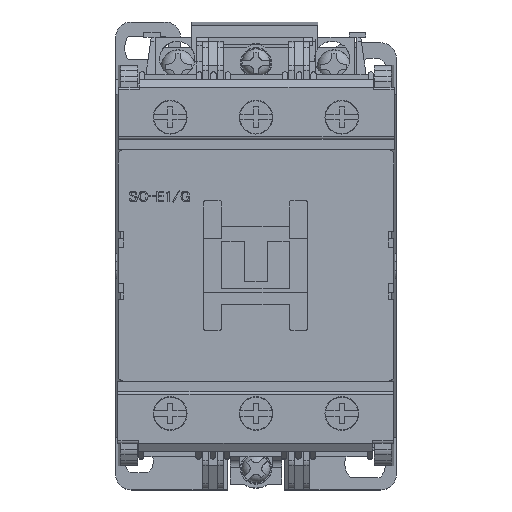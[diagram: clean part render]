
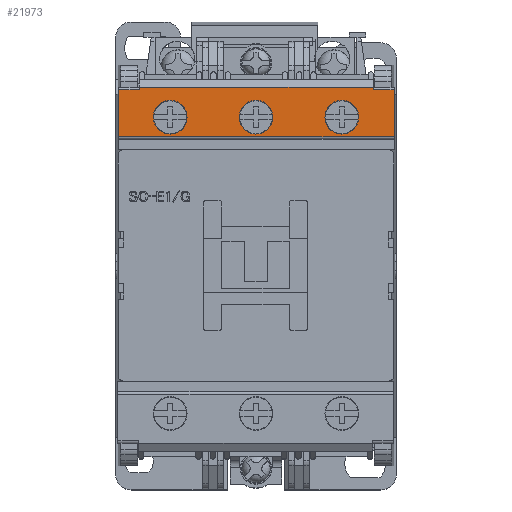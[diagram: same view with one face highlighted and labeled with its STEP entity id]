
A CAD part, top view. The second image highlights one B-rep face of the part: STEP entity #21973.
In plain terms, the highlighted planar face has unit normal (0, 0, 1).
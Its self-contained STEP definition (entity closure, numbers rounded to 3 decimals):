
#37 = VERTEX_POINT ( 'NONE', #20761 ) ;
#124 = VERTEX_POINT ( 'NONE', #1899 ) ;
#529 = CARTESIAN_POINT ( 'NONE',  ( -22.5, 34.25, 6.8 ) ) ;
#1519 = ORIENTED_EDGE ( 'NONE', *, *, #14636, .F. ) ;
#1899 = CARTESIAN_POINT ( 'NONE',  ( -26.5, 24.75, 6.8 ) ) ;
#2329 = DIRECTION ( 'NONE',  ( 1., 0., 0. ) ) ;
#2526 = CARTESIAN_POINT ( 'NONE',  ( 3.179, 28.5, 6.8 ) ) ;
#3137 = FACE_BOUND ( 'NONE', #43216, .T. ) ;
#3888 = VERTEX_POINT ( 'NONE', #44887 ) ;
#3947 = LINE ( 'NONE', #17692, #14181 ) ;
#4514 = VERTEX_POINT ( 'NONE', #2526 ) ;
#4582 = LINE ( 'NONE', #20211, #13640 ) ;
#5092 = LINE ( 'NONE', #41501, #34621 ) ;
#6538 = ORIENTED_EDGE ( 'NONE', *, *, #39422, .F. ) ;
#6556 = CARTESIAN_POINT ( 'NONE',  ( -26.5, 33.75, 6.8 ) ) ;
#7817 = CARTESIAN_POINT ( 'NONE',  ( -16.571, 28.5, 6.8 ) ) ;
#8458 = DIRECTION ( 'NONE',  ( 0., 0., 1. ) ) ;
#8583 = CARTESIAN_POINT ( 'NONE',  ( -26.5, 24.75, 6.8 ) ) ;
#8671 = AXIS2_PLACEMENT_3D ( 'NONE', #6556, #33494, #10438 ) ;
#8782 = DIRECTION ( 'NONE',  ( 1., 0., 0. ) ) ;
#9046 = ORIENTED_EDGE ( 'NONE', *, *, #21666, .F. ) ;
#9391 = VECTOR ( 'NONE', #36190, 1000. ) ;
#9591 = LINE ( 'NONE', #32949, #28844 ) ;
#10079 = CARTESIAN_POINT ( 'NONE',  ( 16.429, 28.5, 6.8 ) ) ;
#10438 = DIRECTION ( 'NONE',  ( 0., -1., 0. ) ) ;
#10603 = VERTEX_POINT ( 'NONE', #44442 ) ;
#11518 = CARTESIAN_POINT ( 'NONE',  ( 26.5, 33.75, 6.8 ) ) ;
#11708 = DIRECTION ( 'NONE',  ( 1., 0., 0. ) ) ;
#12911 = VECTOR ( 'NONE', #34565, 1000. ) ;
#13311 = EDGE_LOOP ( 'NONE', ( #18249 ) ) ;
#13640 = VECTOR ( 'NONE', #8782, 1000. ) ;
#13927 = DIRECTION ( 'NONE',  ( 1., 0., 0. ) ) ;
#14135 = CARTESIAN_POINT ( 'NONE',  ( -13.321, 28.5, 6.8 ) ) ;
#14181 = VECTOR ( 'NONE', #44002, 1000. ) ;
#14636 = EDGE_CURVE ( 'NONE', #31566, #10603, #31798, .T. ) ;
#14764 = VERTEX_POINT ( 'NONE', #25577 ) ;
#15385 = EDGE_CURVE ( 'NONE', #124, #46966, #37763, .T. ) ;
#16764 = AXIS2_PLACEMENT_3D ( 'NONE', #10079, #37010, #13927 ) ;
#16936 = EDGE_CURVE ( 'NONE', #43327, #3888, #19597, .T. ) ;
#17150 = CARTESIAN_POINT ( 'NONE',  ( -22.5, 34.25, 6.8 ) ) ;
#17238 = ORIENTED_EDGE ( 'NONE', *, *, #19585, .F. ) ;
#17356 = VECTOR ( 'NONE', #17773, 1000. ) ;
#17692 = CARTESIAN_POINT ( 'NONE',  ( -26.5, 33.75, 6.8 ) ) ;
#17739 = EDGE_CURVE ( 'NONE', #45094, #46966, #32147, .T. ) ;
#17773 = DIRECTION ( 'NONE',  ( 0., -1., 0. ) ) ;
#18249 = ORIENTED_EDGE ( 'NONE', *, *, #25200, .F. ) ;
#18717 = ORIENTED_EDGE ( 'NONE', *, *, #34780, .F. ) ;
#19585 = EDGE_CURVE ( 'NONE', #14764, #14764, #32310, .T. ) ;
#19597 = LINE ( 'NONE', #17150, #9391 ) ;
#20211 = CARTESIAN_POINT ( 'NONE',  ( -26.5, 33.75, 6.8 ) ) ;
#20761 = CARTESIAN_POINT ( 'NONE',  ( -26.5, 33.75, 6.8 ) ) ;
#21638 = ORIENTED_EDGE ( 'NONE', *, *, #49914, .T. ) ;
#21666 = EDGE_CURVE ( 'NONE', #4514, #4514, #25444, .T. ) ;
#21868 = PLANE ( 'NONE',  #8671 ) ;
#21973 = ADVANCED_FACE ( 'NONE', ( #42924, #3137, #33887, #32654 ), #21868, .T. ) ;
#25200 = EDGE_CURVE ( 'NONE', #43104, #43104, #48303, .T. ) ;
#25444 = CIRCLE ( 'NONE', #29081, 3.25 ) ;
#25577 = CARTESIAN_POINT ( 'NONE',  ( 19.679, 28.5, 6.8 ) ) ;
#27454 = EDGE_LOOP ( 'NONE', ( #9046 ) ) ;
#28480 = CARTESIAN_POINT ( 'NONE',  ( 22.5, 34.25, 6.8 ) ) ;
#28844 = VECTOR ( 'NONE', #2329, 1000. ) ;
#29081 = AXIS2_PLACEMENT_3D ( 'NONE', #31494, #8458, #35378 ) ;
#31494 = CARTESIAN_POINT ( 'NONE',  ( -0.071, 28.5, 6.8 ) ) ;
#31566 = VERTEX_POINT ( 'NONE', #28480 ) ;
#31798 = LINE ( 'NONE', #40872, #17356 ) ;
#32147 = LINE ( 'NONE', #11518, #12911 ) ;
#32285 = EDGE_LOOP ( 'NONE', ( #41756, #33668, #18717, #21638, #33205, #35547, #6538, #1519 ) ) ;
#32310 = CIRCLE ( 'NONE', #16764, 3.25 ) ;
#32598 = CARTESIAN_POINT ( 'NONE',  ( 26.5, 33.75, 6.8 ) ) ;
#32654 = FACE_BOUND ( 'NONE', #27454, .T. ) ;
#32949 = CARTESIAN_POINT ( 'NONE',  ( -26.5, 33.75, 6.8 ) ) ;
#33205 = ORIENTED_EDGE ( 'NONE', *, *, #15385, .T. ) ;
#33494 = DIRECTION ( 'NONE',  ( 0., 0., 1. ) ) ;
#33668 = ORIENTED_EDGE ( 'NONE', *, *, #16936, .T. ) ;
#33887 = FACE_BOUND ( 'NONE', #13311, .T. ) ;
#34565 = DIRECTION ( 'NONE',  ( 0., -1., 0. ) ) ;
#34621 = VECTOR ( 'NONE', #41336, 1000. ) ;
#34745 = DIRECTION ( 'NONE',  ( 0., 0., 1. ) ) ;
#34780 = EDGE_CURVE ( 'NONE', #37, #3888, #9591, .T. ) ;
#35378 = DIRECTION ( 'NONE',  ( 1., 0., 0. ) ) ;
#35547 = ORIENTED_EDGE ( 'NONE', *, *, #17739, .F. ) ;
#35668 = DIRECTION ( 'NONE',  ( 1., 0., 0. ) ) ;
#35888 = AXIS2_PLACEMENT_3D ( 'NONE', #7817, #34745, #11708 ) ;
#36190 = DIRECTION ( 'NONE',  ( 0., -1., 0. ) ) ;
#37010 = DIRECTION ( 'NONE',  ( 0., 0., 1. ) ) ;
#37763 = LINE ( 'NONE', #8583, #45598 ) ;
#39422 = EDGE_CURVE ( 'NONE', #10603, #45094, #4582, .T. ) ;
#40788 = EDGE_CURVE ( 'NONE', #43327, #31566, #5092, .T. ) ;
#40872 = CARTESIAN_POINT ( 'NONE',  ( 22.5, 34.25, 6.8 ) ) ;
#41336 = DIRECTION ( 'NONE',  ( 1., 0., 0. ) ) ;
#41501 = CARTESIAN_POINT ( 'NONE',  ( -6., 34.25, 6.8 ) ) ;
#41756 = ORIENTED_EDGE ( 'NONE', *, *, #40788, .F. ) ;
#42924 = FACE_OUTER_BOUND ( 'NONE', #32285, .T. ) ;
#43104 = VERTEX_POINT ( 'NONE', #14135 ) ;
#43216 = EDGE_LOOP ( 'NONE', ( #17238 ) ) ;
#43327 = VERTEX_POINT ( 'NONE', #529 ) ;
#43352 = CARTESIAN_POINT ( 'NONE',  ( 26.5, 24.75, 6.8 ) ) ;
#44002 = DIRECTION ( 'NONE',  ( 0., -1., 0. ) ) ;
#44442 = CARTESIAN_POINT ( 'NONE',  ( 22.5, 33.75, 6.8 ) ) ;
#44887 = CARTESIAN_POINT ( 'NONE',  ( -22.5, 33.75, 6.8 ) ) ;
#45094 = VERTEX_POINT ( 'NONE', #32598 ) ;
#45598 = VECTOR ( 'NONE', #35668, 1000. ) ;
#46966 = VERTEX_POINT ( 'NONE', #43352 ) ;
#48303 = CIRCLE ( 'NONE', #35888, 3.25 ) ;
#49914 = EDGE_CURVE ( 'NONE', #37, #124, #3947, .T. ) ;
